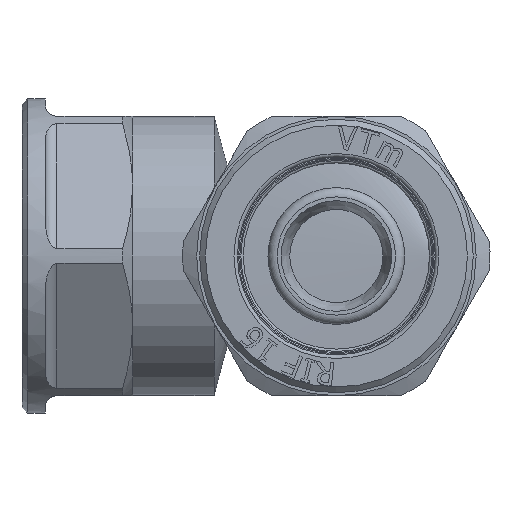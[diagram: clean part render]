
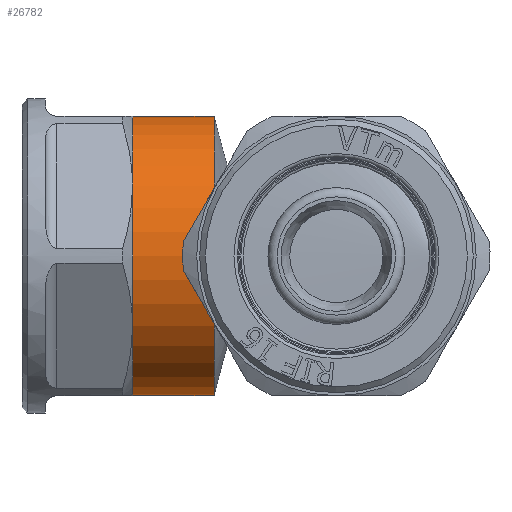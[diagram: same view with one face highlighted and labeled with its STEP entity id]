
A CAD part, left-side view. The second image highlights one B-rep face of the part: STEP entity #26782.
In plain terms, the highlighted cylindrical face has radius 12 mm (diameter 24 mm), a full revolution.
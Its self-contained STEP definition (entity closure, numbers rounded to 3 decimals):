
#2040=LINE('',#63423,#3788);
#3788=VECTOR('',#32498,12.);
#3985=CYLINDRICAL_SURFACE('',#28108,12.);
#6129=FACE_OUTER_BOUND('',#7686,.T.);
#7686=EDGE_LOOP('',(#24623,#24624,#24625,#24626,#24627,#24628,#24629,#24630,
#24631,#24632,#24633));
#9477=CIRCLE('',#27068,12.);
#9478=CIRCLE('',#27069,12.);
#9506=CIRCLE('',#27210,12.);
#9508=CIRCLE('',#27213,12.);
#9509=CIRCLE('',#27214,12.);
#9513=CIRCLE('',#27219,12.);
#9514=CIRCLE('',#27221,12.);
#9517=CIRCLE('',#27225,12.);
#9886=CIRCLE('',#28107,12.);
#10878=VERTEX_POINT('',#39088);
#10879=VERTEX_POINT('',#39090);
#11099=VERTEX_POINT('',#40316);
#11102=VERTEX_POINT('',#40328);
#11105=VERTEX_POINT('',#40340);
#11108=VERTEX_POINT('',#40352);
#11111=VERTEX_POINT('',#40364);
#11114=VERTEX_POINT('',#40376);
#11116=VERTEX_POINT('',#40389);
#13661=EDGE_CURVE('',#10878,#10879,#9477,.T.);
#13662=EDGE_CURVE('',#10879,#10878,#9478,.T.);
#14025=EDGE_CURVE('',#11111,#11108,#9506,.T.);
#14027=EDGE_CURVE('',#11116,#11105,#9508,.T.);
#14028=EDGE_CURVE('',#11114,#11116,#9509,.T.);
#14032=EDGE_CURVE('',#11102,#11111,#9513,.T.);
#14033=EDGE_CURVE('',#11105,#11102,#9514,.T.);
#14036=EDGE_CURVE('',#11099,#11114,#9517,.T.);
#16662=EDGE_CURVE('',#11108,#11099,#9886,.T.);
#16663=EDGE_CURVE('',#10878,#11116,#2040,.T.);
#24623=ORIENTED_EDGE('',*,*,#13662,.F.);
#24624=ORIENTED_EDGE('',*,*,#13661,.F.);
#24625=ORIENTED_EDGE('',*,*,#16663,.T.);
#24626=ORIENTED_EDGE('',*,*,#14027,.T.);
#24627=ORIENTED_EDGE('',*,*,#14033,.T.);
#24628=ORIENTED_EDGE('',*,*,#14032,.T.);
#24629=ORIENTED_EDGE('',*,*,#14025,.T.);
#24630=ORIENTED_EDGE('',*,*,#16662,.T.);
#24631=ORIENTED_EDGE('',*,*,#14036,.T.);
#24632=ORIENTED_EDGE('',*,*,#14028,.T.);
#24633=ORIENTED_EDGE('',*,*,#16663,.F.);
#26782=ADVANCED_FACE('',(#6129),#3985,.T.);
#27068=AXIS2_PLACEMENT_3D('',#39091,#28809,#28810);
#27069=AXIS2_PLACEMENT_3D('',#39092,#28811,#28812);
#27210=AXIS2_PLACEMENT_3D('',#40386,#29346,#29347);
#27213=AXIS2_PLACEMENT_3D('',#40390,#29352,#29353);
#27214=AXIS2_PLACEMENT_3D('',#40391,#29354,#29355);
#27219=AXIS2_PLACEMENT_3D('',#40397,#29364,#29365);
#27221=AXIS2_PLACEMENT_3D('',#40399,#29368,#29369);
#27225=AXIS2_PLACEMENT_3D('',#40403,#29376,#29377);
#28107=AXIS2_PLACEMENT_3D('',#63421,#32494,#32495);
#28108=AXIS2_PLACEMENT_3D('',#63422,#32496,#32497);
#28809=DIRECTION('center_axis',(0.,-1.,0.));
#28810=DIRECTION('ref_axis',(1.,0.,0.));
#28811=DIRECTION('center_axis',(0.,-1.,0.));
#28812=DIRECTION('ref_axis',(1.,0.,0.));
#29346=DIRECTION('center_axis',(0.,-1.,0.));
#29347=DIRECTION('ref_axis',(1.,0.,0.));
#29352=DIRECTION('center_axis',(0.,-1.,0.));
#29353=DIRECTION('ref_axis',(1.,0.,0.));
#29354=DIRECTION('center_axis',(0.,-1.,0.));
#29355=DIRECTION('ref_axis',(1.,0.,0.));
#29364=DIRECTION('center_axis',(0.,-1.,0.));
#29365=DIRECTION('ref_axis',(1.,0.,0.));
#29368=DIRECTION('center_axis',(0.,-1.,0.));
#29369=DIRECTION('ref_axis',(1.,0.,0.));
#29376=DIRECTION('center_axis',(0.,-1.,0.));
#29377=DIRECTION('ref_axis',(1.,0.,0.));
#32494=DIRECTION('center_axis',(0.,-1.,0.));
#32495=DIRECTION('ref_axis',(1.,0.,0.));
#32496=DIRECTION('center_axis',(0.,-1.,0.));
#32497=DIRECTION('ref_axis',(1.,0.,0.));
#32498=DIRECTION('',(0.,1.,0.));
#39088=CARTESIAN_POINT('',(-12.,10.5,0.));
#39090=CARTESIAN_POINT('',(12.,10.5,0.));
#39091=CARTESIAN_POINT('Origin',(0.,10.5,
0.));
#39092=CARTESIAN_POINT('Origin',(0.,10.5,
0.));
#40316=CARTESIAN_POINT('',(0.,17.5,12.));
#40328=CARTESIAN_POINT('',(0.,17.5,-12.));
#40340=CARTESIAN_POINT('',(-10.392,17.5,-6.));
#40352=CARTESIAN_POINT('',(10.392,17.5,6.));
#40364=CARTESIAN_POINT('',(10.392,17.5,-6.));
#40376=CARTESIAN_POINT('',(-10.392,17.5,6.));
#40386=CARTESIAN_POINT('Origin',(0.,17.5,0.));
#40389=CARTESIAN_POINT('',(-12.,17.5,0.));
#40390=CARTESIAN_POINT('Origin',(0.,17.5,0.));
#40391=CARTESIAN_POINT('Origin',(0.,17.5,0.));
#40397=CARTESIAN_POINT('Origin',(0.,17.5,0.));
#40399=CARTESIAN_POINT('Origin',(0.,17.5,0.));
#40403=CARTESIAN_POINT('Origin',(0.,17.5,0.));
#63421=CARTESIAN_POINT('Origin',(0.,17.5,0.));
#63422=CARTESIAN_POINT('Origin',(0.,14.,0.));
#63423=CARTESIAN_POINT('',(-12.,14.,0.));
